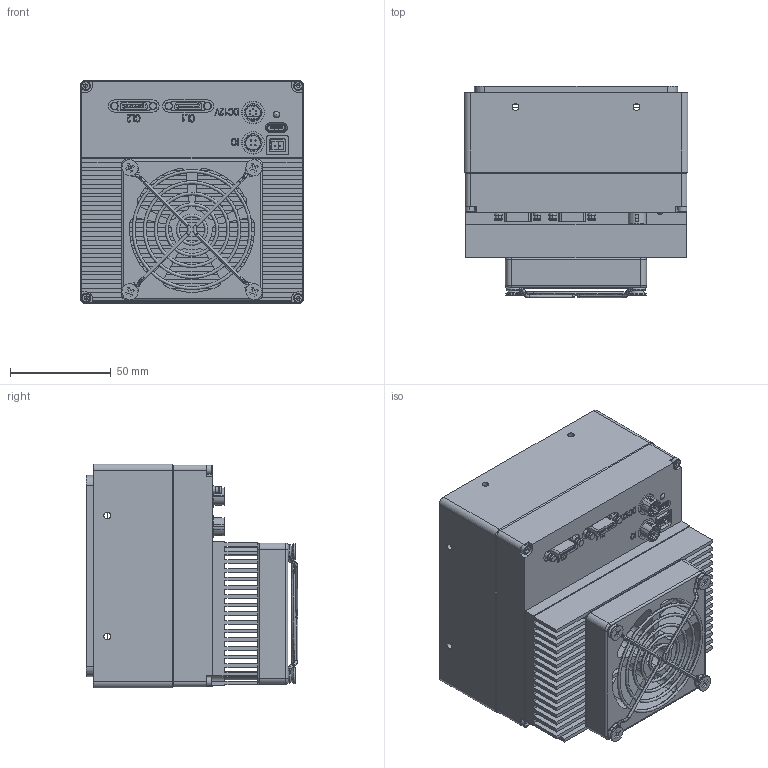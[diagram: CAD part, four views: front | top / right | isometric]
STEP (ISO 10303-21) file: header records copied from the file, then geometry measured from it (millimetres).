
FILE_DESCRIPTION (( 'STEP AP203' ), '1' );
FILE_NAME ('TTS101M2CL-8M(C)-A02-V1.1.0.STEP', '2022-12-06T02:54:03', ( '微软用户' ), ( '微软中国' ), 'SwSTEP 2.0', 'SolidWorks 2017', '' );
FILE_SCHEMA (( 'CONFIG_CONTROL_DESIGN' ));
Length unit declared in the file: millimetre
Products named in the file (1): TTS101M2CL-8M(C)-A02-V1.1.0
Bounding box: 111 x 104.87 x 111 mm (x, y, z)
Surface area: 144218.1 mm2 (no closed solid volume)
Topology: 0 solids, 85 shells, 916 faces, 3468 edges, 2583 vertices
Faces by surface type: plane 447, cylinder 309, bspline 67, cone 58, torus 24, sphere 11
Entity records: 39915 total; most frequent: CARTESIAN_POINT 11374, DIRECTION 5876, ORIENTED_EDGE 5220, EDGE_CURVE 3429, VERTEX_POINT 2571, VECTOR 2206, LINE 2206, AXIS2_PLACEMENT_3D 1835
